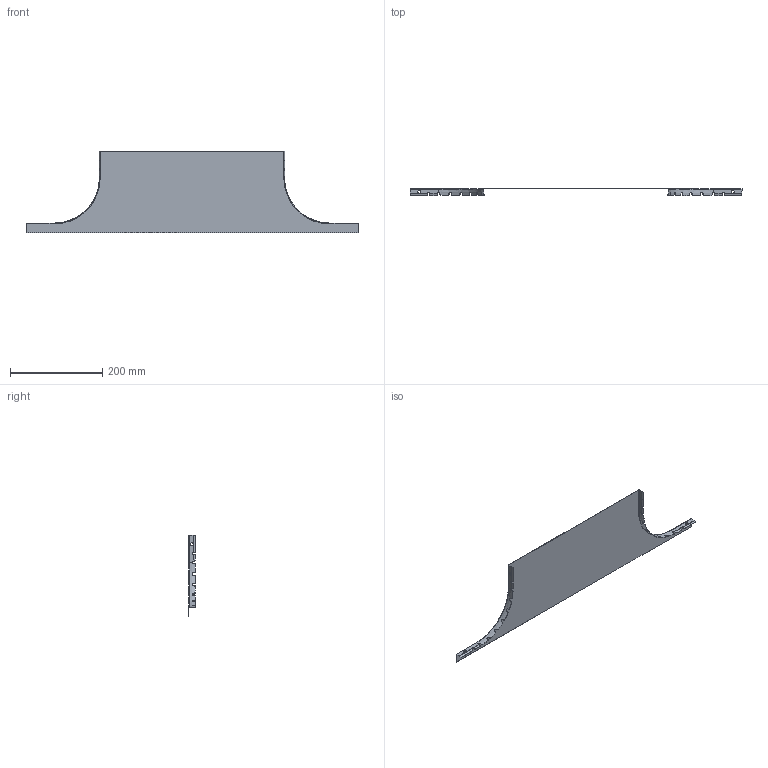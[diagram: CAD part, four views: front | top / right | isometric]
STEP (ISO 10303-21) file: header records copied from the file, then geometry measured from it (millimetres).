
FILE_DESCRIPTION (( 'STEP AP203' ), '1' );
FILE_NAME ('ERE_TAPA AS 400.step', '2023-07-27T18:56:17', ( '' ), ( '' ), 'SwSTEP 2.0', 'SolidWorks 2022', '' );
FILE_SCHEMA (( 'CONFIG_CONTROL_DESIGN' ));
Length unit declared in the file: millimetre
Products named in the file (1): ERE_TAPA AS 400
Bounding box: 720 x 15.01 x 177.8 mm (x, y, z)
Volume: 62324.3 mm3; surface area: 179541.8 mm2
Topology: 1 solids, 1 shells, 310 faces, 812 edges, 496 vertices
Faces by surface type: plane 138, bspline 94, cylinder 74, torus 4
Entity records: 17888 total; most frequent: CARTESIAN_POINT 11078, ORIENTED_EDGE 1624, DIRECTION 1067, EDGE_CURVE 812, VERTEX_POINT 496, AXIS2_PLACEMENT_3D 389, B_SPLINE_CURVE_WITH_KNOTS 351, ADVANCED_FACE 310
